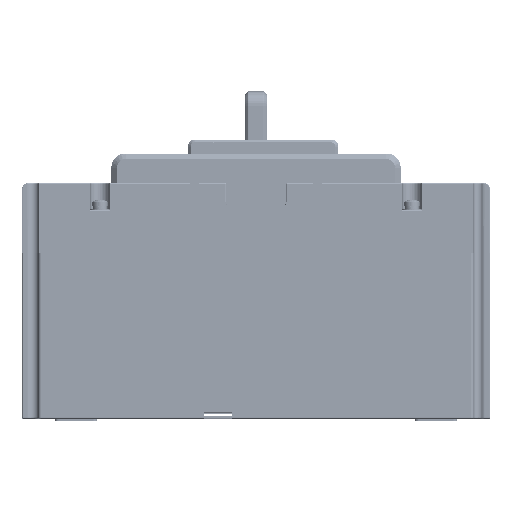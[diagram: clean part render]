
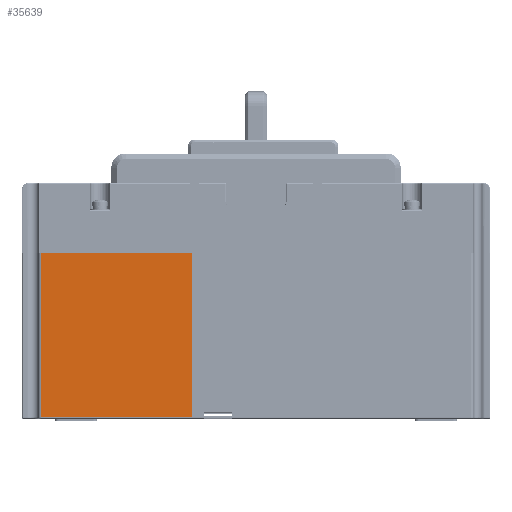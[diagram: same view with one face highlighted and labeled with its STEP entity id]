
A CAD part, top view. The second image highlights one B-rep face of the part: STEP entity #35639.
In plain terms, the highlighted planar face has unit normal (0, 0, 1).
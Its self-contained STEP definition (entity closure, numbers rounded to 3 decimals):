
#2394=DIRECTION('',(1.,0.,0.));
#2395=VECTOR('',#2394,53.167);
#2396=CARTESIAN_POINT('',(-75.667,-49.3,53.5));
#2397=LINE('',#2396,#2395);
#12234=DIRECTION('',(1.,0.,0.));
#12235=VECTOR('',#12234,53.167);
#12236=CARTESIAN_POINT('',(-75.667,8.7,53.5));
#12237=LINE('',#12236,#12235);
#12238=DIRECTION('',(0.,-1.,0.));
#12239=VECTOR('',#12238,58.);
#12240=CARTESIAN_POINT('',(-22.5,8.7,53.5));
#12241=LINE('',#12240,#12239);
#12246=DIRECTION('',(0.,-1.,0.));
#12247=VECTOR('',#12246,58.);
#12248=CARTESIAN_POINT('',(-75.667,8.7,53.5));
#12249=LINE('',#12248,#12247);
#14142=CARTESIAN_POINT('',(-22.5,8.7,53.5));
#14143=VERTEX_POINT('',#14142);
#14144=CARTESIAN_POINT('',(-75.667,8.7,53.5));
#14145=VERTEX_POINT('',#14144);
#15104=CARTESIAN_POINT('',(-22.5,-49.3,53.5));
#15105=VERTEX_POINT('',#15104);
#15106=CARTESIAN_POINT('',(-75.667,-49.3,53.5));
#15107=VERTEX_POINT('',#15106);
#35627=CARTESIAN_POINT('',(0.,0.,53.5));
#35628=DIRECTION('',(0.,0.,1.));
#35629=DIRECTION('',(1.,0.,0.));
#35630=AXIS2_PLACEMENT_3D('',#35627,#35628,#35629);
#35631=PLANE('',#35630);
#35632=ORIENTED_EDGE('',*,*,#21067,.F.);
#35634=ORIENTED_EDGE('',*,*,#35633,.F.);
#35635=ORIENTED_EDGE('',*,*,#18278,.T.);
#35636=ORIENTED_EDGE('',*,*,#21083,.T.);
#35637=EDGE_LOOP('',(#35632,#35634,#35635,#35636));
#35638=FACE_OUTER_BOUND('',#35637,.F.);
#35639=ADVANCED_FACE('',(#35638),#35631,.T.);
#18278=EDGE_CURVE('',#14145,#14143,#12237,.T.);
#21067=EDGE_CURVE('',#15107,#15105,#2397,.T.);
#21083=EDGE_CURVE('',#14143,#15105,#12241,.T.);
#35633=EDGE_CURVE('',#14145,#15107,#12249,.T.);
